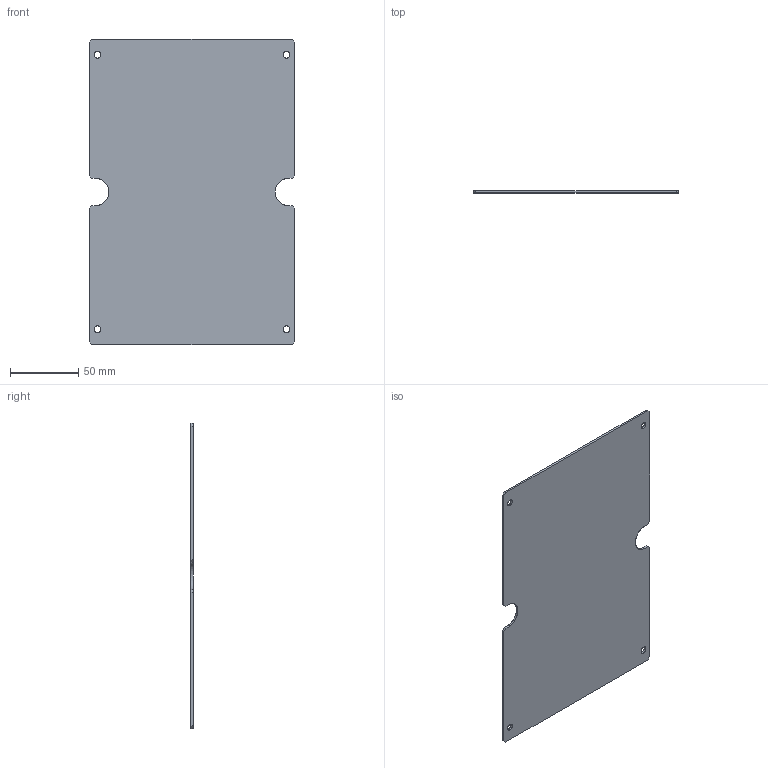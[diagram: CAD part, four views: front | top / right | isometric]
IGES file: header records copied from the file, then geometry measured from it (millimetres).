
Start section: SolidWorks IGES file using analytic representation for surfaces
Global section: file name: G:\3DRAW\EURONORD\3DCAM\Plastic\Asennuslevyt\TM 1625.IGS; native system: SolidWorks 2009; preprocessor: SolidWorks 2009; author: KennethW; date: 100217.142040; units: millimetre
Bounding box: 151 x 1.5 x 224 mm (x, y, z)
Surface area: 67737 mm2 (no closed solid volume)
Topology: 0 solids, 0 shells, 30 faces, 468 edges, 468 vertices
Faces by surface type: bspline 20, revolution 10
